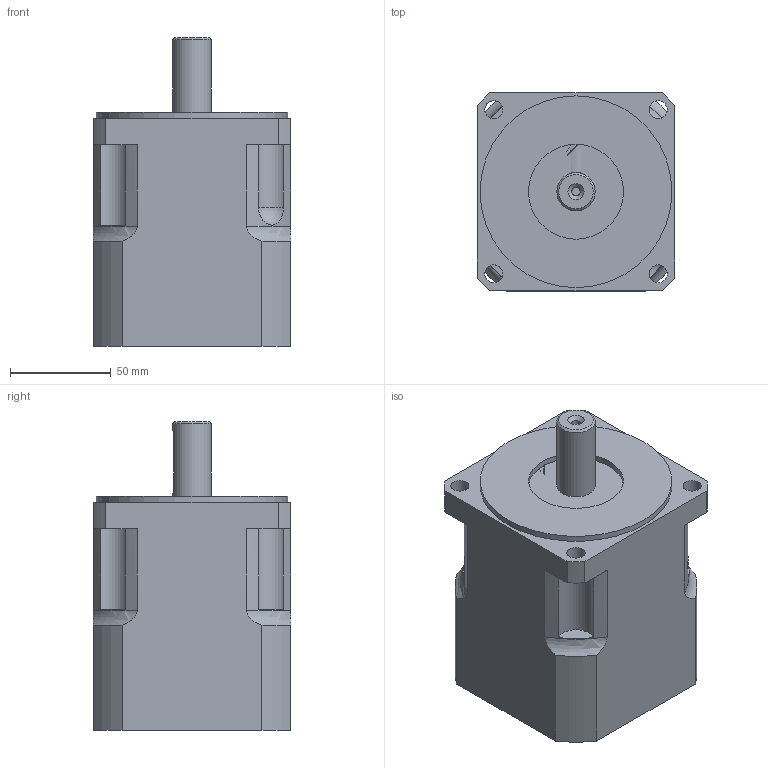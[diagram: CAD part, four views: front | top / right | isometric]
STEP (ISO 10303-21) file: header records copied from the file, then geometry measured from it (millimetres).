
FILE_DESCRIPTION(/* description */ ('Alibre Inc.'),/* implementation_level */ '2;1');
FILE_NAME(/* name */ 'export2',/* time_stamp */ '2013-04-30T12:05:57+02:00',/* author */ (''),/* organization */ (''),/* preprocessor_version */ 'ST-DEVELOPER v12',/* originating_system */ 'Alibre',/* authorisation */ '');
FILE_SCHEMA (('ALIBRE_SCHEMA','CONFIG_CONTROL_DESIGN'));
Length unit declared in the file: centimetre
Products named in the file (5): ID_1; ID_2
Bounding box: 98 x 98 x 153 mm (x, y, z)
Volume: 1100246.3 mm3; surface area: 86556.3 mm2
Topology: 4 solids, 6 shells, 726 faces, 1936 edges, 1262 vertices
Faces by surface type: cylinder 279, plane 236, bspline 110, cone 49, torus 29, sphere 23
Full cylindrical faces by diameter (mm): 1 x15, 1.013 x1, 1.035 x1, 2 x6, 2.15 x6, 2.7 x8, 4.134 x1, 4.5 x2, 5.5 x1, 5.9 x2, 9 x4, 19 x1, 20 x4, 20.1 x3, 21.15 x4, 21.6 x2, 21.8 x2, 21.9 x2, 24.4 x2, 47 x1, 95 x1
Entity records: 56970 total; most frequent: CARTESIAN_POINT 20438, ORIENTED_EDGE 6780, DIRECTION 5943, EDGE_CURVE 3390, AXIS2_PLACEMENT_3D 2570, VERTEX_POINT 2368, EDGE_LOOP 1784, FACE_BOUND 1784
